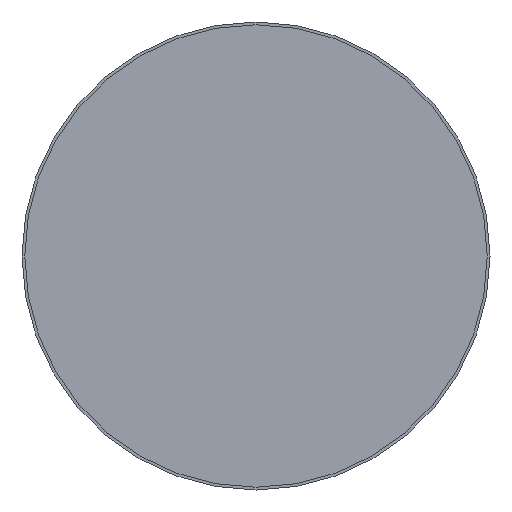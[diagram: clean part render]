
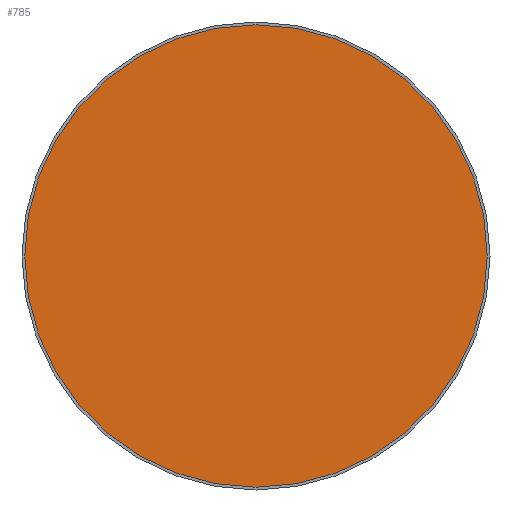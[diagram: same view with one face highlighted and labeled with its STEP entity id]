
A CAD part, left-side view. The second image highlights one B-rep face of the part: STEP entity #785.
In plain terms, the highlighted planar face has unit normal (-1, 0, 0).
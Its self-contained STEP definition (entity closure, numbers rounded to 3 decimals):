
#738=CARTESIAN_POINT('',(-850.012,-552.975,63.241));
#739=VERTEX_POINT('',#738);
#746=CARTESIAN_POINT('',(-850.012,-635.975,63.241));
#747=VERTEX_POINT('',#746);
#748=CARTESIAN_POINT('',(-850.012,-594.475,63.241));
#749=DIRECTION('',(-1.0,0.0,0.0));
#750=DIRECTION('',(0.0,1.0,0.0));
#751=AXIS2_PLACEMENT_3D('',#748,#749,#750);
#752=CIRCLE('',#751,41.5);
#753=EDGE_CURVE('',#747,#739,#752,.T.);
#755=CARTESIAN_POINT('',(-850.012,-594.475,63.241));
#756=DIRECTION('',(-1.0,0.0,0.0));
#757=DIRECTION('',(0.0,1.0,0.0));
#758=AXIS2_PLACEMENT_3D('',#755,#756,#757);
#759=CIRCLE('',#758,41.5);
#760=EDGE_CURVE('',#739,#747,#759,.T.);
#776=CARTESIAN_POINT('',(-850.012,-644.275,113.041));
#777=DIRECTION('',(-1.0,0.0,0.0));
#778=DIRECTION('',(0.0,1.0,0.0));
#779=AXIS2_PLACEMENT_3D('',#776,#777,#778);
#780=PLANE('',#779);
#781=ORIENTED_EDGE('',*,*,#760,.T.);
#782=ORIENTED_EDGE('',*,*,#753,.T.);
#783=EDGE_LOOP('',(#781,#782));
#784=FACE_OUTER_BOUND('',#783,.T.);
#785=ADVANCED_FACE('',(#784),#780,.T.);
